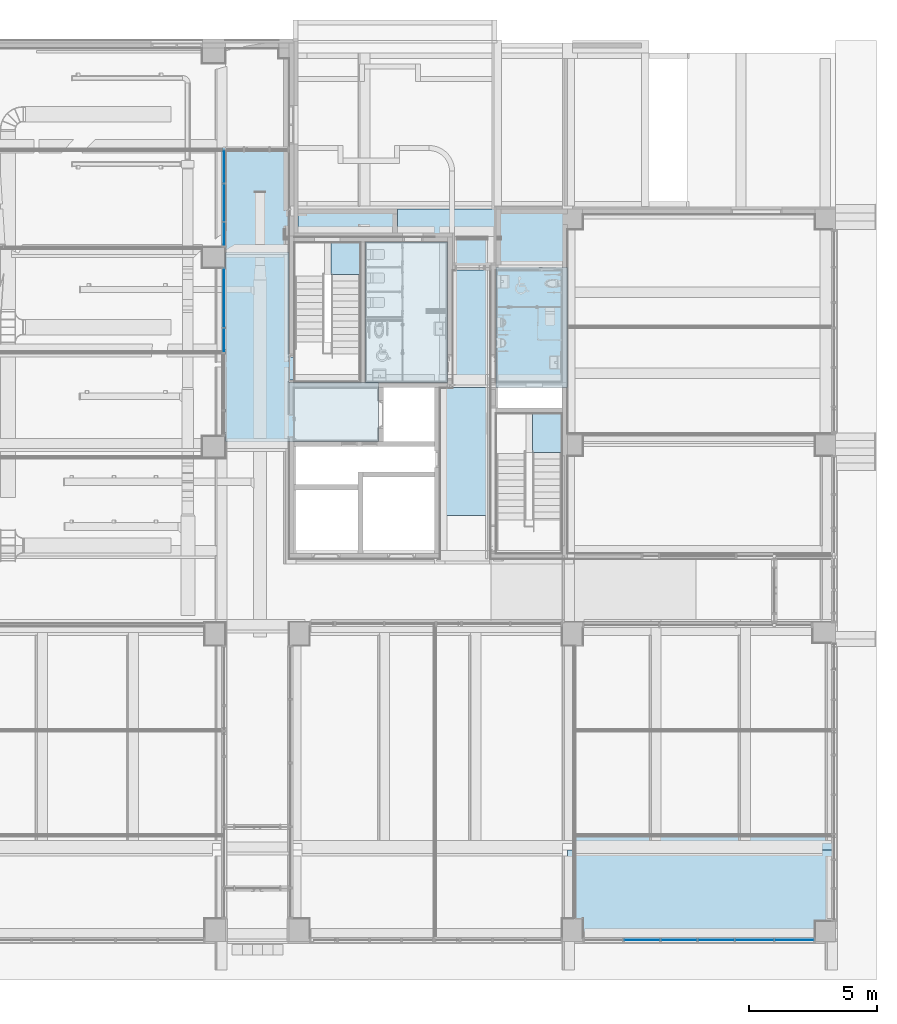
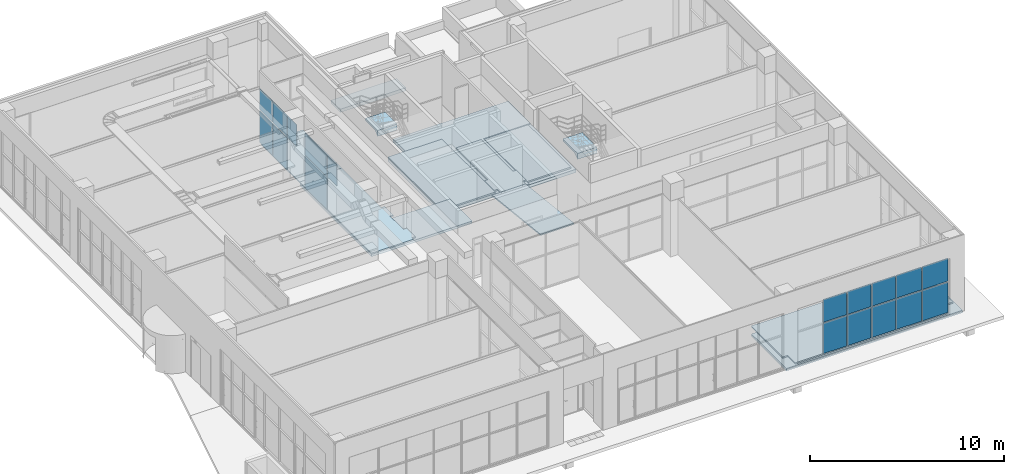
# One storey, part 25 of 100: 18 plates, 14 slabs, 6 elements without a shape of their own.
"""IFC2X3 building model written with IfcOpenShell, lengths in millimetres."""

from ifc_helpers import new_model, entity, si_unit, converted_unit, derived_unit, direction, frame, frame_2d, origin, origin_2d_with_axis, place, context, subcontext, project, spatial, polyline, rectangle, outline, extrude, clip, halfspace, source, transform, mapped, material, layer, layer_set, layer_usage, type_object, type_shapes, element, aggregate, save


model = new_model("IFC2X3")

# Units and contexts
model_context = context("Model", 3, precision=0.01, world=origin(), true_north=direction((6.123031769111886e-17, 1.0)))
body_context = subcontext(model_context, "Body", "Model", "MODEL_VIEW")
ifc_project = project(units=[si_unit("LENGTHUNIT", "METRE", prefix="MILLI"), si_unit("AREAUNIT", "SQUARE_METRE"), si_unit("VOLUMEUNIT", "CUBIC_METRE"), converted_unit("PLANEANGLEUNIT", "DEGREE", entity("IfcRatioMeasure", 0.017453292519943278), si_unit("PLANEANGLEUNIT", "RADIAN"), dimensions=[0, 0, 0, 0, 0, 0, 0]), si_unit("MASSUNIT", "GRAM", prefix="KILO"), derived_unit("MASSDENSITYUNIT", [(si_unit("MASSUNIT", "GRAM", prefix="KILO"), 1), (si_unit("LENGTHUNIT", "METRE"), -3)]), derived_unit("MOMENTOFINERTIAUNIT", [(si_unit("LENGTHUNIT", "METRE"), 4)]), si_unit("TIMEUNIT", "SECOND"), si_unit("FREQUENCYUNIT", "HERTZ"), si_unit("THERMODYNAMICTEMPERATUREUNIT", "DEGREE_CELSIUS"), derived_unit("THERMALTRANSMITTANCEUNIT", [(si_unit("MASSUNIT", "GRAM", prefix="KILO"), 1), (si_unit("THERMODYNAMICTEMPERATUREUNIT", "KELVIN"), -1), (si_unit("TIMEUNIT", "SECOND"), -3)]), derived_unit("VOLUMETRICFLOWRATEUNIT", [(si_unit("LENGTHUNIT", "METRE"), 3), (si_unit("TIMEUNIT", "SECOND"), -1)]), derived_unit("MASSFLOWRATEUNIT", [(si_unit("MASSUNIT", "GRAM", prefix="KILO"), 1), (si_unit("TIMEUNIT", "SECOND"), -1)]), derived_unit("ROTATIONALFREQUENCYUNIT", [(si_unit("TIMEUNIT", "SECOND"), -1)]), si_unit("ELECTRICCURRENTUNIT", "AMPERE"), si_unit("ELECTRICVOLTAGEUNIT", "VOLT"), si_unit("POWERUNIT", "WATT"), si_unit("FORCEUNIT", "NEWTON", prefix="KILO"), si_unit("ILLUMINANCEUNIT", "LUX"), si_unit("LUMINOUSFLUXUNIT", "LUMEN"), si_unit("LUMINOUSINTENSITYUNIT", "CANDELA"), derived_unit("USERDEFINED", [(si_unit("MASSUNIT", "GRAM", prefix="KILO"), -1), (si_unit("LENGTHUNIT", "METRE"), -2), (si_unit("TIMEUNIT", "SECOND"), 3), (si_unit("LUMINOUSFLUXUNIT", "LUMEN"), 1)]), derived_unit("SOUNDPOWERUNIT", [(si_unit("MASSUNIT", "GRAM", prefix="KILO"), 1), (si_unit("LENGTHUNIT", "METRE"), 2), (si_unit("TIMEUNIT", "SECOND"), -3)]), derived_unit("SOUNDPRESSUREUNIT", [(si_unit("MASSUNIT", "GRAM", prefix="KILO"), 1), (si_unit("LENGTHUNIT", "METRE"), -1), (si_unit("TIMEUNIT", "SECOND"), -2)]), derived_unit("LINEARVELOCITYUNIT", [(si_unit("LENGTHUNIT", "METRE"), 1), (si_unit("TIMEUNIT", "SECOND"), -1)]), si_unit("PRESSUREUNIT", "PASCAL"), derived_unit("USERDEFINED", [(si_unit("LENGTHUNIT", "METRE"), -2), (si_unit("MASSUNIT", "GRAM", prefix="KILO"), 1), (si_unit("TIMEUNIT", "SECOND"), -2)]), derived_unit("LINEARFORCEUNIT", [(si_unit("MASSUNIT", "GRAM", prefix="KILO"), 1), (si_unit("LENGTHUNIT", "METRE"), 1), (si_unit("TIMEUNIT", "SECOND"), -2), (si_unit("LENGTHUNIT", "METRE"), -1)]), derived_unit("PLANARFORCEUNIT", [(si_unit("MASSUNIT", "GRAM", prefix="KILO"), 1), (si_unit("LENGTHUNIT", "METRE"), 1), (si_unit("TIMEUNIT", "SECOND"), -2), (si_unit("LENGTHUNIT", "METRE"), -2)])], contexts=[model_context])

# Site, building, storey
site_placement = place(None, frame((-14167.972527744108, -657.2125860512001, 0.0)))
site = spatial("IfcSite", under=ifc_project, at=site_placement, Name="Default", CompositionType="ELEMENT")
building_placement = place(site_placement, origin())
building = spatial("IfcBuilding", under=site, at=building_placement, Name="Sample Building", CompositionType="ELEMENT")
storey_placement = place(building_placement, origin())
storey = spatial("IfcBuildingStorey", under=building, at=storey_placement, Name="지상 1층", CompositionType="ELEMENT", Elevation=0.0)

# Slabs
ifc_material_1 = material(Name="SL341-테라조 바닥 (바탕48mm, 마감32mm)")
ifc_layer_1 = layer(ifc_material_1, 80.0)
ifc_layer_set_1 = layer_set([ifc_layer_1], Name="바닥:A1-14-06B-테라조타일 (80mm)")
ifc_layer_usage_1 = layer_usage(ifc_layer_set_1, "AXIS3", "POSITIVE", 0.0)
slab_type_1 = type_object("IfcSlabType", Name="바닥:A1-14-06B-테라조타일 (80mm)", PredefinedType="FLOOR", material=ifc_layer_set_1)
slab_1_placement = place(storey_placement, origin())
element("IfcSlab", 1, at=slab_1_placement, inside=storey, type_object=slab_type_1, material=ifc_layer_usage_1, Name="바닥:A1-14-06B-테라조타일 (80mm)", ObjectType="바닥:A1-14-06B-테라조타일 (80mm)", PredefinedType="FLOOR", context=body_context, shape_type="SweptSolid", body=[
    extrude(outline(polyline([(-590.6166405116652, -4943.747832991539), (2646.8490905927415, -4943.747832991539), (2646.8490905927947, 5131.243504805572), (-690.6162186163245, 5131.2435048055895), (-690.6162186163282, 4456.252161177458), (-1365.6162314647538, 4456.252161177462), (-1365.6162314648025, -4643.7478329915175), (-590.6166405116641, -4643.747832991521), (-590.6166405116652, -4943.747832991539)])), frame((46211.7203241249, 2047.828526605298, 80.0), z_axis=(0.0, 0.0, -1.0), x_axis=(0.0, 1.0, 0.0)), (0.0, 0.0, 1.0), 80.0),
])
ifc_material_2 = material(Name="SL312-화강석물갈기 바닥 (바탕30mm, 마감30mm)")
ifc_layer_2 = layer(ifc_material_2, 80.0)
ifc_layer_set_2 = layer_set([ifc_layer_2], Name="바닥:A1-15-01B-화강석(물갈기) (80mm)")
ifc_layer_usage_2 = layer_usage(ifc_layer_set_2, "AXIS3", "POSITIVE", 0.0)
slab_type_2 = type_object("IfcSlabType", Name="바닥:A1-15-01B-화강석(물갈기) (80mm)", PredefinedType="FLOOR", material=ifc_layer_set_2)
slab_2_placement = place(storey_placement, origin())
element("IfcSlab", 2, at=slab_2_placement, inside=storey, type_object=slab_type_2, material=ifc_layer_usage_2, Name="바닥:A1-15-01B-화강석(물갈기) (80mm)", ObjectType="바닥:A1-15-01B-화강석(물갈기) (80mm)", PredefinedType="FLOOR", context=body_context, shape_type="SweptSolid", body=[
    extrude(outline(polyline([(-997.8464950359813, -950.0), (2.1535049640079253, -950.0), (2.1535049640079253, -750.0), (3295.6929819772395, -750.0), (3295.6929819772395, 750.0), (2.1535049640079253, 750.0), (2.1535049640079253, 950.0), (-997.8464950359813, 950.0), (-997.8464950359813, 750.0), (-1304.3070018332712, 750.0), (-1304.3070018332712, -750.0), (-997.8464950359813, -750.0), (-997.8464950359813, -950.0)])), frame((37217.963798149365, 23561.519313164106, -470.0), z_axis=(0.0, 0.0, -1.0), x_axis=(0.0, 1.0, 0.0)), (0.0, 0.0, 1.0), 80.00000000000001),
])
ifc_layer_usage_3 = layer_usage(ifc_layer_set_2, "AXIS3", "POSITIVE", 0.0)
slab_type_3 = type_object("IfcSlabType", Name="바닥:A1-15-01B-화강석(물갈기) (80mm)", PredefinedType="FLOOR", material=ifc_layer_set_2)
slab_3_placement = place(storey_placement, origin())
element("IfcSlab", 3, at=slab_3_placement, inside=storey, type_object=slab_type_3, material=ifc_layer_usage_3, Name="바닥:A1-15-01B-화강석(물갈기) (80mm)", ObjectType="바닥:A1-15-01B-화강석(물갈기) (80mm)", PredefinedType="FLOOR", context=body_context, shape_type="SweptSolid", body=[
    extrude(outline(polyline([(-2383.3101247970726, -2149.0882217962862), (5016.689769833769, -2149.0882217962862), (5016.689769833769, 349.08245088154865), (916.6550895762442, 349.08245088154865), (916.6550895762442, 550.9204345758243), (16.655089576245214, 550.9204345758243), (16.655089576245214, 349.08245088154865), (-1333.3449120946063, 349.08245088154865), (-1333.3449120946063, 550.9204345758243), (-2233.3449120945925, 550.9204345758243), (-2233.3449120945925, 349.08245088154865), (-2383.3101247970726, 349.08245088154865), (-2383.3101247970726, -2149.0882217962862)])), frame((29717.043363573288, 22540.522538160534, 80.0), z_axis=(0.0, 0.0, -1.0), x_axis=(0.0, 1.0, 0.0)), (0.0, 0.0, 1.0), 80.0),
])
ifc_layer_usage_4 = layer_usage(ifc_layer_set_2, "AXIS3", "POSITIVE", 0.0)
slab_type_4 = type_object("IfcSlabType", Name="바닥:A1-15-01B-화강석(물갈기) (80mm)", PredefinedType="FLOOR", material=ifc_layer_set_2)
slab_4_placement = place(storey_placement, origin())
element("IfcSlab", 4, at=slab_4_placement, inside=storey, type_object=slab_type_4, material=ifc_layer_usage_4, Name="바닥:A1-15-01B-화강석(물갈기) (80mm)", ObjectType="바닥:A1-15-01B-화강석(물갈기) (80mm)", PredefinedType="FLOOR", context=body_context, shape_type="SweptSolid", body=[
    extrude(rectangle(XDim=3984.965440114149, YDim=2498.170672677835, at=frame_2d((2.1600499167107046e-12, 0.0), x_axis=(1.0, 0.0))), frame((28817.04047811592, 29549.695028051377, 80.0), z_axis=(0.0, 0.0, -1.0), x_axis=(0.0, 1.0, 0.0)), (0.0, 0.0, 1.0), 80.0),
])

# Curtain wall, plate
curtain_wall_type = type_object("IfcCurtainWallType", Name="커튼월:CW112-스테인리스 스틸 커튼월", PredefinedType="NOTDEFINED")
curtain_wall_1_placement = place(storey_placement, origin())
curtain_wall_1 = element("IfcCurtainWall", 5, at=curtain_wall_1_placement, inside=storey, type_object=curtain_wall_type, Name="커튼월:CW112-스테인리스 스틸 커튼월", ObjectType="커튼월:CW112-스테인리스 스틸 커튼월")
ifc_material_3 = material(Name="KBIMS-로이유리(코팅)")
plate_type_1 = type_object("IfcPlateType", Name="CW300-THK24.Low-e coating glass:CW300-THK24.Low-e coating glass", PredefinedType="CURTAIN_PANEL", material=ifc_material_3)
shared_shape_1 = source(origin(), body_context, "Body", "SweptSolid", [
    extrude(rectangle(XDim=950.0000000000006, YDim=24.000000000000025, at=origin_2d_with_axis()), frame((0.0, 0.0, 0.0), z_axis=(0.0, 0.0, 1.0), x_axis=(-1.0, 0.0, 0.0)), (0.0, 0.0, 1.0), 1345.000000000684),
])
type_shapes(plate_type_1, [shared_shape_1])
plate_1_placement = place(curtain_wall_1_placement, frame((27522.955141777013, 24107.17762439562, 2205.0), z_axis=(0.0, 0.0, 1.0), x_axis=(0.0, 1.0, 0.0)))
plate_1 = element("IfcPlate", 6, at=plate_1_placement, type_object=plate_type_1, material=ifc_material_3, Name="CW300-THK24.Low-e coating glass:CW300-THK24.Low-e coating glass", ObjectType="CW300-THK24.Low-e coating glass:CW300-THK24.Low-e coating glass", context=body_context, shape_type="MappedRepresentation", body=[
    mapped(shared_shape_1, transform((0.0, 0.0, 0.0), scale=1.0)),
])

# Curtain wall, plates
curtain_wall_2_placement = place(storey_placement, origin())
curtain_wall_2 = element("IfcCurtainWall", 7, at=curtain_wall_2_placement, inside=storey, type_object=curtain_wall_type, Name="커튼월:CW112-스테인리스 스틸 커튼월", ObjectType="커튼월:CW112-스테인리스 스틸 커튼월")
plate_type_2 = type_object("IfcPlateType", Name="CW300-THK24.Low-e coating glass:CW300-THK24.Low-e coating glass", PredefinedType="CURTAIN_PANEL", material=ifc_material_3)
shared_shape_2 = source(origin(), body_context, "Body", "SweptSolid", [
    extrude(rectangle(XDim=1399.9999999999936, YDim=24.000000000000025, at=origin_2d_with_axis()), frame((0.0, 0.0, 0.0), z_axis=(0.0, 0.0, 1.0), x_axis=(-1.0, 0.0, 0.0)), (0.0, 0.0, 1.0), 1924.9999999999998),
])
type_shapes(plate_type_2, [shared_shape_2])
plate_2_placement = place(curtain_wall_2_placement, frame((43893.32629889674, 619.7122951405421, 130.0)))
plate_2 = element("IfcPlate", 8, at=plate_2_placement, type_object=plate_type_2, material=ifc_material_3, Name="CW300-THK24.Low-e coating glass:CW300-THK24.Low-e coating glass", ObjectType="CW300-THK24.Low-e coating glass:CW300-THK24.Low-e coating glass", context=body_context, shape_type="MappedRepresentation", body=[
    mapped(shared_shape_2, transform((0.0, 0.0, 0.0), scale=1.0)),
])
plate_3_placement = place(curtain_wall_2_placement, frame((45343.32629889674, 619.7122951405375, 130.0)))
plate_3 = element("IfcPlate", 9, at=plate_3_placement, type_object=plate_type_2, material=ifc_material_3, Name="CW300-THK24.Low-e coating glass:CW300-THK24.Low-e coating glass", ObjectType="CW300-THK24.Low-e coating glass:CW300-THK24.Low-e coating glass", context=body_context, shape_type="MappedRepresentation", body=[
    mapped(shared_shape_2, transform((0.0, 0.0, 0.0), scale=1.0)),
])
plate_4_placement = place(curtain_wall_2_placement, frame((46793.32629889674, 619.7122951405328, 130.0)))
plate_4 = element("IfcPlate", 10, at=plate_4_placement, type_object=plate_type_2, material=ifc_material_3, Name="CW300-THK24.Low-e coating glass:CW300-THK24.Low-e coating glass", ObjectType="CW300-THK24.Low-e coating glass:CW300-THK24.Low-e coating glass", context=body_context, shape_type="MappedRepresentation", body=[
    mapped(shared_shape_2, transform((0.0, 0.0, 0.0), scale=1.0)),
])
plate_type_3 = type_object("IfcPlateType", Name="CW300-THK24.Low-e coating glass:CW300-THK24.Low-e coating glass", PredefinedType="CURTAIN_PANEL", material=ifc_material_3)
shared_shape_3 = source(origin(), body_context, "Body", "SweptSolid", [
    extrude(rectangle(XDim=1499.9999999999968, YDim=24.000000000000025, at=origin_2d_with_axis()), frame((0.0, 0.0, 0.0), z_axis=(0.0, 0.0, 1.0), x_axis=(-1.0, 0.0, 0.0)), (0.0, 0.0, 1.0), 1924.9999999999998),
])
type_shapes(plate_type_3, [shared_shape_3])
plate_5_placement = place(curtain_wall_2_placement, frame((48293.32629889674, 619.7122951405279, 130.0)))
plate_5 = element("IfcPlate", 11, at=plate_5_placement, type_object=plate_type_3, material=ifc_material_3, Name="CW300-THK24.Low-e coating glass:CW300-THK24.Low-e coating glass", ObjectType="CW300-THK24.Low-e coating glass:CW300-THK24.Low-e coating glass", context=body_context, shape_type="MappedRepresentation", body=[
    mapped(shared_shape_3, transform((0.0, 0.0, 0.0), scale=1.0)),
])
plate_type_4 = type_object("IfcPlateType", Name="CW300-THK24.Low-e coating glass:CW300-THK24.Low-e coating glass", PredefinedType="CURTAIN_PANEL", material=ifc_material_3)
shared_shape_4 = source(origin(), body_context, "Body", "SweptSolid", [
    extrude(rectangle(XDim=1524.6461864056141, YDim=24.000000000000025, at=origin_2d_with_axis()), frame((0.0, 0.0, 0.0), z_axis=(0.0, 0.0, 1.0), x_axis=(-1.0, 0.0, 0.0)), (0.0, 0.0, 1.0), 1924.9999999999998),
])
type_shapes(plate_type_4, [shared_shape_4])
plate_6_placement = place(curtain_wall_2_placement, frame((49855.64939209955, 619.7122951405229, 130.0)))
plate_6 = element("IfcPlate", 12, at=plate_6_placement, type_object=plate_type_4, material=ifc_material_3, Name="CW300-THK24.Low-e coating glass:CW300-THK24.Low-e coating glass", ObjectType="CW300-THK24.Low-e coating glass:CW300-THK24.Low-e coating glass", context=body_context, shape_type="MappedRepresentation", body=[
    mapped(shared_shape_4, transform((0.0, 0.0, 0.0), scale=1.0)),
])
plate_type_5 = type_object("IfcPlateType", Name="CW300-THK24.Low-e coating glass:CW300-THK24.Low-e coating glass", PredefinedType="CURTAIN_PANEL", material=ifc_material_3)
shared_shape_5 = source(origin(), body_context, "Body", "SweptSolid", [
    extrude(rectangle(XDim=1399.9999999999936, YDim=24.000000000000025, at=origin_2d_with_axis()), frame((0.0, 0.0, 0.0), z_axis=(0.0, 0.0, 1.0), x_axis=(-1.0, 0.0, 0.0)), (0.0, 0.0, 1.0), 1445.000000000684),
])
type_shapes(plate_type_5, [shared_shape_5])
plate_7_placement = place(curtain_wall_2_placement, frame((43893.32629889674, 619.7122951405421, 2105.0)))
plate_7 = element("IfcPlate", 13, at=plate_7_placement, type_object=plate_type_5, material=ifc_material_3, Name="CW300-THK24.Low-e coating glass:CW300-THK24.Low-e coating glass", ObjectType="CW300-THK24.Low-e coating glass:CW300-THK24.Low-e coating glass", context=body_context, shape_type="MappedRepresentation", body=[
    mapped(shared_shape_5, transform((0.0, 0.0, 0.0), scale=1.0)),
])
plate_8_placement = place(curtain_wall_2_placement, frame((45343.32629889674, 619.7122951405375, 2105.0)))
plate_8 = element("IfcPlate", 14, at=plate_8_placement, type_object=plate_type_5, material=ifc_material_3, Name="CW300-THK24.Low-e coating glass:CW300-THK24.Low-e coating glass", ObjectType="CW300-THK24.Low-e coating glass:CW300-THK24.Low-e coating glass", context=body_context, shape_type="MappedRepresentation", body=[
    mapped(shared_shape_5, transform((0.0, 0.0, 0.0), scale=1.0)),
])
plate_9_placement = place(curtain_wall_2_placement, frame((46793.32629889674, 619.7122951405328, 2105.0)))
plate_9 = element("IfcPlate", 15, at=plate_9_placement, type_object=plate_type_5, material=ifc_material_3, Name="CW300-THK24.Low-e coating glass:CW300-THK24.Low-e coating glass", ObjectType="CW300-THK24.Low-e coating glass:CW300-THK24.Low-e coating glass", context=body_context, shape_type="MappedRepresentation", body=[
    mapped(shared_shape_5, transform((0.0, 0.0, 0.0), scale=1.0)),
])
plate_type_6 = type_object("IfcPlateType", Name="CW300-THK24.Low-e coating glass:CW300-THK24.Low-e coating glass", PredefinedType="CURTAIN_PANEL", material=ifc_material_3)
shared_shape_6 = source(origin(), body_context, "Body", "SweptSolid", [
    extrude(rectangle(XDim=1499.9999999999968, YDim=24.000000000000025, at=origin_2d_with_axis()), frame((0.0, 0.0, 0.0), z_axis=(0.0, 0.0, 1.0), x_axis=(-1.0, 0.0, 0.0)), (0.0, 0.0, 1.0), 1445.0000000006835),
])
type_shapes(plate_type_6, [shared_shape_6])
plate_10_placement = place(curtain_wall_2_placement, frame((48293.32629889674, 619.7122951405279, 2105.0)))
plate_10 = element("IfcPlate", 16, at=plate_10_placement, type_object=plate_type_6, material=ifc_material_3, Name="CW300-THK24.Low-e coating glass:CW300-THK24.Low-e coating glass", ObjectType="CW300-THK24.Low-e coating glass:CW300-THK24.Low-e coating glass", context=body_context, shape_type="MappedRepresentation", body=[
    mapped(shared_shape_6, transform((0.0, 0.0, 0.0), scale=1.0)),
])
plate_type_7 = type_object("IfcPlateType", Name="CW300-THK24.Low-e coating glass:CW300-THK24.Low-e coating glass", PredefinedType="CURTAIN_PANEL", material=ifc_material_3)
shared_shape_7 = source(origin(), body_context, "Body", "SweptSolid", [
    extrude(rectangle(XDim=1524.6461864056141, YDim=24.000000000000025, at=origin_2d_with_axis()), frame((0.0, 0.0, 0.0), z_axis=(0.0, 0.0, 1.0), x_axis=(-1.0, 0.0, 0.0)), (0.0, 0.0, 1.0), 1445.000000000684),
])
type_shapes(plate_type_7, [shared_shape_7])
plate_11_placement = place(curtain_wall_2_placement, frame((49855.64939209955, 619.7122951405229, 2105.0)))
plate_11 = element("IfcPlate", 17, at=plate_11_placement, type_object=plate_type_7, material=ifc_material_3, Name="CW300-THK24.Low-e coating glass:CW300-THK24.Low-e coating glass", ObjectType="CW300-THK24.Low-e coating glass:CW300-THK24.Low-e coating glass", context=body_context, shape_type="MappedRepresentation", body=[
    mapped(shared_shape_7, transform((0.0, 0.0, 0.0), scale=1.0)),
])
aggregate(curtain_wall_2, [plate_2, plate_3, plate_4, plate_5, plate_6, plate_7, plate_8, plate_9, plate_10, plate_11])

# Plate
plate_type_8 = type_object("IfcPlateType", Name="CW300-THK24.Low-e coating glass:CW300-THK24.Low-e coating glass", PredefinedType="CURTAIN_PANEL", material=ifc_material_3)
shared_shape_8 = source(origin(), body_context, "Body", "SweptSolid", [
    extrude(rectangle(XDim=2275.0172668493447, YDim=24.000000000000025, at=origin_2d_with_axis()), frame((0.0, 0.0, 0.0), z_axis=(0.0, 0.0, 1.0), x_axis=(-1.0, 0.0, 0.0)), (0.0, 0.0, 1.0), 2025.0000000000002),
])
type_shapes(plate_type_8, [shared_shape_8])
plate_12_placement = place(curtain_wall_1_placement, frame((27522.955141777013, 25769.686257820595, 130.0), z_axis=(0.0, 0.0, 1.0), x_axis=(0.0, 1.0, 0.0)))
plate_12 = element("IfcPlate", 18, at=plate_12_placement, type_object=plate_type_8, material=ifc_material_3, Name="CW300-THK24.Low-e coating glass:CW300-THK24.Low-e coating glass", ObjectType="CW300-THK24.Low-e coating glass:CW300-THK24.Low-e coating glass", context=body_context, shape_type="MappedRepresentation", body=[
    mapped(shared_shape_8, transform((0.0, 0.0, 0.0), scale=1.0)),
])

plate_type_9 = type_object("IfcPlateType", Name="CW300-THK24.Low-e coating glass:CW300-THK24.Low-e coating glass", PredefinedType="CURTAIN_PANEL", material=ifc_material_3)
shared_shape_9 = source(origin(), body_context, "Body", "SweptSolid", [
    extrude(rectangle(XDim=2275.0172668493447, YDim=24.000000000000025, at=origin_2d_with_axis()), frame((0.0, 0.0, 0.0), z_axis=(0.0, 0.0, 1.0), x_axis=(-1.0, 0.0, 0.0)), (0.0, 0.0, 1.0), 1345.0000000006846),
])
type_shapes(plate_type_9, [shared_shape_9])
plate_13_placement = place(curtain_wall_1_placement, frame((27522.955141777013, 25769.686257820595, 2205.0), z_axis=(0.0, 0.0, 1.0), x_axis=(0.0, 1.0, 0.0)))
plate_13 = element("IfcPlate", 19, at=plate_13_placement, type_object=plate_type_9, material=ifc_material_3, Name="CW300-THK24.Low-e coating glass:CW300-THK24.Low-e coating glass", ObjectType="CW300-THK24.Low-e coating glass:CW300-THK24.Low-e coating glass", context=body_context, shape_type="MappedRepresentation", body=[
    mapped(shared_shape_9, transform((0.0, 0.0, 0.0), scale=1.0)),
])

aggregate(curtain_wall_1, [plate_12, plate_1, plate_13])

# Curtain wall, plates
curtain_wall_3_placement = place(storey_placement, origin())
curtain_wall_3 = element("IfcCurtainWall", 20, at=curtain_wall_3_placement, inside=storey, type_object=curtain_wall_type, Name="커튼월:CW112-스테인리스 스틸 커튼월", ObjectType="커튼월:CW112-스테인리스 스틸 커튼월")
plate_type_10 = type_object("IfcPlateType", Name="CW300-THK24.Low-e coating glass:CW300-THK24.Low-e coating glass", PredefinedType="CURTAIN_PANEL", material=ifc_material_3)
shared_shape_10 = source(origin(), body_context, "Body", "SweptSolid", [
    extrude(rectangle(XDim=1450.0000000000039, YDim=24.000000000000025, at=origin_2d_with_axis()), frame((0.0, 0.0, 0.0), z_axis=(0.0, 0.0, 1.0), x_axis=(-1.0, 0.0, 0.0)), (0.0, 0.0, 1.0), 2024.9999999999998),
])
type_shapes(plate_type_10, [shared_shape_10])
plate_14_placement = place(curtain_wall_3_placement, frame((27522.955141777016, 29507.212307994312, 130.0), z_axis=(0.0, 0.0, 1.0), x_axis=(0.0, 1.0, 0.0)))
plate_14 = element("IfcPlate", 21, at=plate_14_placement, type_object=plate_type_10, material=ifc_material_3, Name="CW300-THK24.Low-e coating glass:CW300-THK24.Low-e coating glass", ObjectType="CW300-THK24.Low-e coating glass:CW300-THK24.Low-e coating glass", context=body_context, shape_type="MappedRepresentation", body=[
    mapped(shared_shape_10, transform((0.0, 0.0, 0.0), scale=1.0)),
])
plate_type_11 = type_object("IfcPlateType", Name="CW300-THK24.Low-e coating glass:CW300-THK24.Low-e coating glass", PredefinedType="CURTAIN_PANEL", material=ifc_material_3)
shared_shape_11 = source(origin(), body_context, "Body", "SweptSolid", [
    extrude(rectangle(XDim=1304.9654401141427, YDim=24.000000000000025, at=origin_2d_with_axis()), frame((0.0, 0.0, 0.0), z_axis=(0.0, 0.0, 1.0), x_axis=(-1.0, 0.0, 0.0)), (0.0, 0.0, 1.0), 2024.9999999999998),
])
type_shapes(plate_type_11, [shared_shape_11])
plate_15_placement = place(curtain_wall_3_placement, frame((27522.955141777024, 30934.69502805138, 130.0), z_axis=(0.0, 0.0, 1.0), x_axis=(0.0, 1.0, 0.0)))
plate_15 = element("IfcPlate", 22, at=plate_15_placement, type_object=plate_type_11, material=ifc_material_3, Name="CW300-THK24.Low-e coating glass:CW300-THK24.Low-e coating glass", ObjectType="CW300-THK24.Low-e coating glass:CW300-THK24.Low-e coating glass", context=body_context, shape_type="MappedRepresentation", body=[
    mapped(shared_shape_11, transform((0.0, 0.0, 0.0), scale=1.0)),
])
plate_type_12 = type_object("IfcPlateType", Name="CW300-THK24.Low-e coating glass:CW300-THK24.Low-e coating glass", PredefinedType="CURTAIN_PANEL", material=ifc_material_3)
shared_shape_12 = source(origin(), body_context, "Body", "SweptSolid", [
    extrude(rectangle(XDim=925.0171386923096, YDim=24.000000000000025, at=origin_2d_with_axis()), frame((0.0, 0.0, 0.0), z_axis=(0.0, 0.0, 1.0), x_axis=(-1.0, 0.0, 0.0)), (0.0, 0.0, 1.0), 1345.0000000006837),
])
type_shapes(plate_type_12, [shared_shape_12])
plate_16_placement = place(curtain_wall_3_placement, frame((27522.955141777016, 28269.703738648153, 2205.0), z_axis=(0.0, 0.0, 1.0), x_axis=(0.0, 1.0, 0.0)))
plate_16 = element("IfcPlate", 23, at=plate_16_placement, type_object=plate_type_12, material=ifc_material_3, Name="CW300-THK24.Low-e coating glass:CW300-THK24.Low-e coating glass", ObjectType="CW300-THK24.Low-e coating glass:CW300-THK24.Low-e coating glass", context=body_context, shape_type="MappedRepresentation", body=[
    mapped(shared_shape_12, transform((0.0, 0.0, 0.0), scale=1.0)),
])
plate_type_13 = type_object("IfcPlateType", Name="CW300-THK24.Low-e coating glass:CW300-THK24.Low-e coating glass", PredefinedType="CURTAIN_PANEL", material=ifc_material_3)
shared_shape_13 = source(origin(), body_context, "Body", "SweptSolid", [
    extrude(rectangle(XDim=1450.0000000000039, YDim=24.000000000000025, at=origin_2d_with_axis()), frame((0.0, 0.0, 0.0), z_axis=(0.0, 0.0, 1.0), x_axis=(-1.0, 0.0, 0.0)), (0.0, 0.0, 1.0), 1345.000000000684),
])
type_shapes(plate_type_13, [shared_shape_13])
plate_17_placement = place(curtain_wall_3_placement, frame((27522.955141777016, 29507.212307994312, 2205.0), z_axis=(0.0, 0.0, 1.0), x_axis=(0.0, 1.0, 0.0)))
plate_17 = element("IfcPlate", 24, at=plate_17_placement, type_object=plate_type_13, material=ifc_material_3, Name="CW300-THK24.Low-e coating glass:CW300-THK24.Low-e coating glass", ObjectType="CW300-THK24.Low-e coating glass:CW300-THK24.Low-e coating glass", context=body_context, shape_type="MappedRepresentation", body=[
    mapped(shared_shape_13, transform((0.0, 0.0, 0.0), scale=1.0)),
])
plate_type_14 = type_object("IfcPlateType", Name="CW300-THK24.Low-e coating glass:CW300-THK24.Low-e coating glass", PredefinedType="CURTAIN_PANEL", material=ifc_material_3)
shared_shape_14 = source(origin(), body_context, "Body", "SweptSolid", [
    extrude(rectangle(XDim=1304.9654401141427, YDim=24.000000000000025, at=origin_2d_with_axis()), frame((0.0, 0.0, 0.0), z_axis=(0.0, 0.0, 1.0), x_axis=(-1.0, 0.0, 0.0)), (0.0, 0.0, 1.0), 1345.0000000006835),
])
type_shapes(plate_type_14, [shared_shape_14])
plate_18_placement = place(curtain_wall_3_placement, frame((27522.955141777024, 30934.69502805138, 2205.0), z_axis=(0.0, 0.0, 1.0), x_axis=(0.0, 1.0, 0.0)))
plate_18 = element("IfcPlate", 25, at=plate_18_placement, type_object=plate_type_14, material=ifc_material_3, Name="CW300-THK24.Low-e coating glass:CW300-THK24.Low-e coating glass", ObjectType="CW300-THK24.Low-e coating glass:CW300-THK24.Low-e coating glass", context=body_context, shape_type="MappedRepresentation", body=[
    mapped(shared_shape_14, transform((0.0, 0.0, 0.0), scale=1.0)),
])
aggregate(curtain_wall_3, [plate_14, plate_15, plate_16, plate_17, plate_18])

# Slab
ifc_material_4 = material(Name="KBIMS-콘크리트")
ifc_layer_3 = layer(ifc_material_4, 150.0)
ifc_layer_set_3 = layer_set([ifc_layer_3], Name="바닥:SL111-철근콘크리트구조 바닥 150mm_S3")
ifc_layer_usage_5 = layer_usage(ifc_layer_set_3, "AXIS3", "POSITIVE", 0.0)
slab_type_5 = type_object("IfcSlabType", Name="바닥:SL111-철근콘크리트구조 바닥 150mm_S3", PredefinedType="FLOOR", material=ifc_layer_set_3)
slab_5_placement = place(storey_placement, origin())
element("IfcSlab", 26, at=slab_5_placement, inside=storey, type_object=slab_type_5, material=ifc_layer_usage_5, Name="바닥:SL111-철근콘크리트구조 바닥 150mm_S3", ObjectType="바닥:SL111-철근콘크리트구조 바닥 150mm_S3", PredefinedType="FLOOR", context=body_context, shape_type="SweptSolid", body=[
    extrude(rectangle(XDim=3599.999766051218, YDim=10499.637530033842, at=frame_2d((-1.1368683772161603e-13, 4.547473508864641e-12), x_axis=(1.0, 0.0))), frame((46218.145063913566, 2357.212500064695, 0.0), z_axis=(0.0, 0.0, -1.0), x_axis=(0.0, 1.0, 0.0)), (0.0, 0.0, 1.0), 150.0),
])

# Roof, slab
ifc_material_5 = material(Name="KBIMS-철근콘크리트")
ifc_layer_4 = layer(ifc_material_5, 200.0)
ifc_layer_set_4 = layer_set([ifc_layer_4], Name="기본 지붕:RF111-철근콘크리트구조 지붕")
roof_placement = place(storey_placement, frame((30417.963761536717, 28307.212307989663, 3000.0)))
roof = element("IfcRoof", 27, at=roof_placement, inside=storey, material=ifc_layer_set_4, Name="기본 지붕:RF111-철근콘크리트구조 지붕", ObjectType="기본 지붕:RF111-철근콘크리트구조 지붕", ShapeType="NOTDEFINED")
slab_type_6 = type_object("IfcSlabType", Name="기본 지붕:RF111-철근콘크리트구조 지붕", PredefinedType="ROOF")
slab_6_placement = place(roof_placement, origin())
slab_6 = element("IfcSlab", 28, at=slab_6_placement, type_object=slab_type_6, material=ifc_layer_set_4, Name="기본 지붕:RF111-철근콘크리트구조 지붕", ObjectType="기본 지붕:RF111-철근콘크리트구조 지붕", PredefinedType="ROOF", context=body_context, shape_type="SweptSolid", body=[
    extrude(rectangle(XDim=3898.5694324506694, YDim=949.9999999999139, at=frame_2d((-2.1600499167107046e-12, 0.0), x_axis=(1.0, 0.0))), frame((1949.284716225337, 475.0, 0.0)), (0.0, 0.0, 1.0), 200.0),
])
aggregate(roof, [slab_6])

# Slabs
ifc_material_6 = material(Name="SL351-자기질타일 바닥 (바탕32mm, 압착8mm)")
ifc_layer_5 = layer(ifc_material_6, 40.0)
ifc_material_7 = material(Name="SL553-보호모르타르 바닥 (콘크리트면) 30mm")
ifc_layer_6 = layer(ifc_material_7, 30.0)
ifc_material_8 = material(Name="SL521-도막방수 바닥 (비노출) 3mm")
ifc_layer_7 = layer(ifc_material_8, 3.0)
ifc_material_9 = material(Name="SL551-시멘트모르타르 미장 바닥 17mm")
ifc_layer_8 = layer(ifc_material_9, 17.0)
ifc_layer_set_5 = layer_set([ifc_layer_5, ifc_layer_6, ifc_layer_7, ifc_layer_8], Name="바닥:A1-14-03A-시멘트모르타르(고름용), 도막방수, 시멘트모르타르(보호용), 자기질타일 (90mm)")
ifc_layer_usage_6 = layer_usage(ifc_layer_set_5, "AXIS3", "POSITIVE", 0.0)
slab_type_7 = type_object("IfcSlabType", Name="바닥:A1-14-03A-시멘트모르타르(고름용), 도막방수, 시멘트모르타르(보호용), 자기질타일 (90mm)", PredefinedType="FLOOR", material=ifc_layer_set_5)
slab_7_placement = place(storey_placement, origin())
element("IfcSlab", 29, at=slab_7_placement, inside=storey, type_object=slab_type_7, material=ifc_layer_usage_6, Name="바닥:A1-14-03A-시멘트모르타르(고름용), 도막방수, 시멘트모르타르(보호용), 자기질타일 (90mm)", ObjectType="바닥:A1-14-03A-시멘트모르타르(고름용), 도막방수, 시멘트모르타르(보호용), 자기질타일 (90mm)", PredefinedType="FLOOR", context=body_context, shape_type="SweptSolid", body=[
    extrude(rectangle(XDim=5499.999996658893, YDim=3199.99130701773, at=frame_2d((0.0, -2.1600499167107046e-12), x_axis=(1.0, 0.0))), frame((34667.96814464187, 25207.212309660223, -510.0), z_axis=(0.0, 0.0, -1.0), x_axis=(0.0, 1.0, 0.0)), (0.0, 0.0, 1.0), 90.00000000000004),
])
ifc_layer_9 = layer(ifc_material_4, 200.0)
ifc_layer_set_6 = layer_set([ifc_layer_9], Name="바닥:SL111-철근콘크리트구조 바닥 200mm_S4")
ifc_layer_usage_7 = layer_usage(ifc_layer_set_6, "AXIS3", "POSITIVE", 0.0)
slab_type_8 = type_object("IfcSlabType", Name="바닥:SL111-철근콘크리트구조 바닥 200mm_S4", PredefinedType="FLOOR", material=ifc_layer_set_6)
slab_8_placement = place(storey_placement, origin())
element("IfcSlab", 30, at=slab_8_placement, inside=storey, type_object=slab_type_8, material=ifc_layer_usage_7, Name="바닥:SL111-철근콘크리트구조 바닥 200mm_S4", ObjectType="바닥:SL111-철근콘크리트구조 바닥 200mm_S4", PredefinedType="FLOOR", context=body_context, shape_type="SweptSolid", body=[
    extrude(rectangle(XDim=3199.991307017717, YDim=5499.999996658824, at=frame_2d((480.0017385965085, -487.22703823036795), x_axis=(1.0, 0.0))), frame((35147.96988323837, 24719.985271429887, -800.0), z_axis=(0.0, 0.0, 1.0), x_axis=(-1.0, 0.0, 0.0)), (0.0, 0.0, 1.0), 200.0),
    extrude(rectangle(XDim=2799.999999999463, YDim=4699.999996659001, at=frame_2d((-292.471789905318, -407.22703566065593), x_axis=(1.0, 0.0))), frame((39275.49200824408, 24199.985261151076, -800.0), z_axis=(0.0, 0.0, 1.0), x_axis=(-1.0, 0.0, 0.0)), (0.0, 0.0, 1.0), 200.0),
])
ifc_layer_usage_8 = layer_usage(ifc_layer_set_3, "AXIS3", "POSITIVE", 0.0)
slab_type_9 = type_object("IfcSlabType", Name="바닥:SL111-철근콘크리트구조 바닥 150mm_S3", PredefinedType="FLOOR", material=ifc_layer_set_3)
slab_9_placement = place(storey_placement, origin())
element("IfcSlab", 31, at=slab_9_placement, inside=storey, type_object=slab_type_9, material=ifc_layer_usage_8, Name="바닥:SL111-철근콘크리트구조 바닥 150mm_S3", ObjectType="바닥:SL111-철근콘크리트구조 바닥 150mm_S3", PredefinedType="FLOOR", context=body_context, shape_type="SweptSolid", body=[
    extrude(outline(polyline([(-3233.333264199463, -2832.7293650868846), (4166.6666304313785, -2832.7293650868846), (4166.6666304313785, -334.5586557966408), (-933.3333662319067, -334.55865579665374), (-933.3333662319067, 3167.2880208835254), (-3233.333264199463, 3167.2880208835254), (-3233.333264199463, -2832.7293650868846)])), frame((30400.684470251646, 23390.545677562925, 0.0), z_axis=(0.0, 0.0, -1.0), x_axis=(0.0, 1.0, 0.0)), (0.0, 0.0, 1.0), 150.0),
])
ifc_layer_usage_9 = layer_usage(ifc_layer_set_2, "AXIS3", "POSITIVE", 0.0)
slab_type_10 = type_object("IfcSlabType", Name="바닥:A1-15-01B-화강석(물갈기) (80mm)", PredefinedType="FLOOR", material=ifc_layer_set_2)
slab_10_placement = place(storey_placement, origin())
element("IfcSlab", 32, at=slab_10_placement, inside=storey, type_object=slab_type_10, material=ifc_layer_usage_9, Name="바닥:A1-15-01B-화강석(물갈기) (80mm)", ObjectType="바닥:A1-15-01B-화강석(물갈기) (80mm)", PredefinedType="FLOOR", context=body_context, shape_type="SweptSolid", body=[
    clip(clip(extrude(rectangle(XDim=5030.159043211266, YDim=1999.9913070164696, at=frame_2d((-4.547473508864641e-12, -2.1600499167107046e-12), x_axis=(1.0, 0.0))), frame((36967.96814464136, 19757.21231133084, -195.0), z_axis=(0.0, -0.1093404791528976, -0.994004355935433), x_axis=(0.0, 0.994004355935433, -0.1093404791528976)), (0.1093404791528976, 0.0, 0.994004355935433), 80.96800000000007), halfspace(frame((36967.96814464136, 17257.212311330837, -0.48254469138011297), z_axis=(0.0, -0.10934047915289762, -0.9940043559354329), x_axis=(0.0, 0.9940043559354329, -0.10934047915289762)), False)), halfspace(frame((36967.96814464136, 17257.212311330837, 80.0), z_axis=(0.0, 0.10934047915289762, 0.9940043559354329), x_axis=(0.0, -0.9940043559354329, 0.10934047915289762)), False)),
])
ifc_layer_usage_10 = layer_usage(ifc_layer_set_6, "AXIS3", "POSITIVE", 0.0)
slab_type_11 = type_object("IfcSlabType", Name="바닥:SL111-철근콘크리트구조 바닥 200mm_S4", PredefinedType="FLOOR", material=ifc_layer_set_6)
slab_11_placement = place(storey_placement, origin())
element("IfcSlab", 33, at=slab_11_placement, inside=storey, type_object=slab_type_11, material=ifc_layer_usage_10, Name="바닥:SL111-철근콘크리트구조 바닥 200mm_S4", ObjectType="바닥:SL111-철근콘크리트구조 바닥 200mm_S4", PredefinedType="FLOOR", context=body_context, shape_type="SweptSolid", body=[
    extrude(outline(polyline([(1350.000005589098, -3263.570769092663), (2649.9999927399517, -3263.570769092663), (2649.9999927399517, 3587.8598350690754), (349.99999274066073, 3587.8598350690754), (349.99999274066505, 787.851098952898), (-4349.9999910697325, 787.851098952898), (-4349.999991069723, -1112.1401649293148), (1350.0000055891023, -1112.1401649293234), (1350.000005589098, -3263.570769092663)])), frame((37380.10396308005, 26607.212302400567, -550.0), z_axis=(0.0, 0.0, -1.0), x_axis=(0.0, 1.0, 0.0)), (0.0, 0.0, 1.0), 200.0),
])

# Stair, slab
stair_1_placement = place(storey_placement, origin())
stair_1 = element("IfcStair", 34, at=stair_1_placement, inside=storey, Name="현장타설 계단:계단", ObjectType="현장타설 계단:ST111-철근콘크리트구조 계단 (U형)", ShapeType="NOTDEFINED")
slab_type_12 = type_object("IfcSlabType", Name="일체형 계단참:일체형 계단참 150mm_철근콘크리트", PredefinedType="LANDING")
slab_12_placement = place(stair_1_placement, origin())
slab_12 = element("IfcSlab", 35, at=slab_12_placement, type_object=slab_type_12, material=ifc_material_4, Name="현장타설 계단:계단:5949467 Landing 1", ObjectType="일체형 계단참:일체형 계단참 150mm_철근콘크리트", PredefinedType="LANDING", context=body_context, shape_type="SweptSolid", body=[
    extrude(outline(polyline([(-143.31407711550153, -406.83399193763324), (6.685922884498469, -406.83399193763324), (41.30130749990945, -406.83399193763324), (225.2690780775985, -406.83399193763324), (6.685922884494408, -98.99604837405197), (6.685922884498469, 863.1660080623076), (-143.31407711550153, 863.1660080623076), (-143.31407711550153, -406.83399193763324)])), frame((31707.980314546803, 27094.04629992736, 2256.6859228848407), z_axis=(1.0, 0.0, 0.0), x_axis=(0.0, 0.0, -1.0)), (0.0, 0.0, 1.0), 1159.9921765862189),
])
aggregate(stair_1, [slab_12])

stair_2_placement = place(storey_placement, origin())
stair_2 = element("IfcStair", 36, at=stair_2_placement, inside=storey, Name="현장타설 계단:계단", ObjectType="현장타설 계단:ST111-철근콘크리트구조 계단 (U형)", ShapeType="NOTDEFINED")
slab_type_13 = type_object("IfcSlabType", Name="일체형 계단참:일체형 계단참 150mm_철근콘크리트", PredefinedType="LANDING")
slab_13_placement = place(stair_2_placement, origin())
slab_13 = element("IfcSlab", 37, at=slab_13_placement, type_object=slab_type_13, material=ifc_material_4, Name="현장타설 계단:계단:5959493 Landing 1", ObjectType="일체형 계단참:일체형 계단참 150mm_철근콘크리트", PredefinedType="LANDING", context=body_context, shape_type="SweptSolid", body=[
    extrude(outline(polyline([(-143.31407711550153, -481.11970622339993), (6.685922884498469, -481.11970622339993), (41.30130749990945, -481.11970622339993), (225.26907807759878, -481.11970622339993), (6.68592288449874, -173.28176265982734), (6.685922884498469, 1048.8802937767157), (-143.31407711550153, 1048.8802937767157), (-143.31407711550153, -481.11970622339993)])), frame((39599.818298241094, 20208.331998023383, 2256.6859228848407), z_axis=(1.0, 0.0, 0.0), x_axis=(0.0, 0.0, -1.0)), (0.0, 0.0, 1.0), 1159.9921765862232),
])
aggregate(stair_2, [slab_13])

# Slab
ifc_layer_usage_11 = layer_usage(ifc_layer_set_5, "AXIS3", "POSITIVE", 0.0)
slab_type_14 = type_object("IfcSlabType", Name="바닥:A1-14-03A-시멘트모르타르(고름용), 도막방수, 시멘트모르타르(보호용), 자기질타일 (90mm)", PredefinedType="FLOOR", material=ifc_layer_set_5)
slab_14_placement = place(storey_placement, origin())
element("IfcSlab", 38, at=slab_14_placement, inside=storey, type_object=slab_type_14, material=ifc_layer_usage_11, Name="바닥:A1-14-03A-시멘트모르타르(고름용), 도막방수, 시멘트모르타르(보호용), 자기질타일 (90mm)", ObjectType="바닥:A1-14-03A-시멘트모르타르(고름용), 도막방수, 시멘트모르타르(보호용), 자기질타일 (90mm)", PredefinedType="FLOOR", context=body_context, shape_type="SweptSolid", body=[
    extrude(rectangle(XDim=4399.999996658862, YDim=2600.000000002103, at=frame_2d((-2.0463630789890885e-12, 4.320099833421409e-12), x_axis=(1.0, 0.0))), frame((39467.963798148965, 24657.212309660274, -510.0), z_axis=(0.0, 0.0, -1.0), x_axis=(0.0, 1.0, 0.0)), (0.0, 0.0, 1.0), 90.00000000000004),
])

save(model, "model.ifc")
